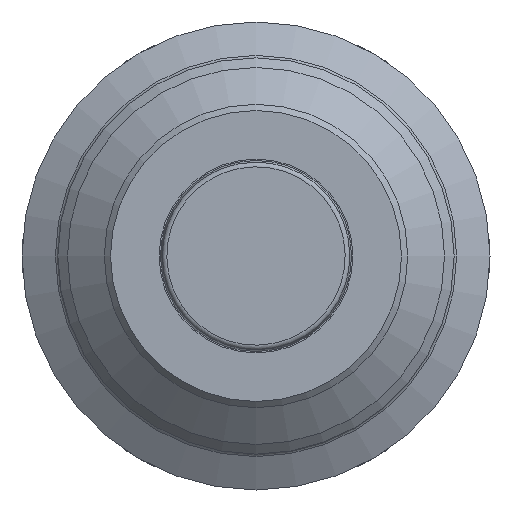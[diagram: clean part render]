
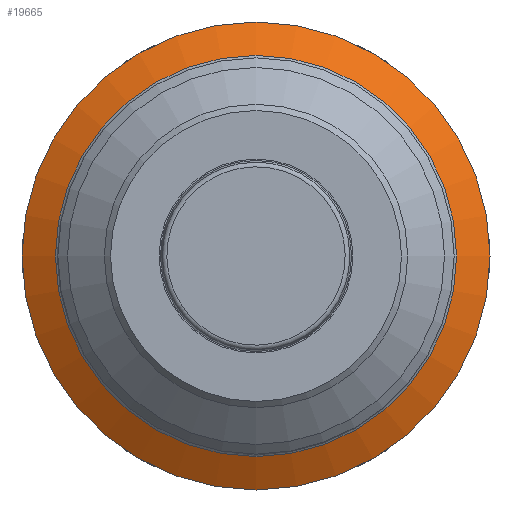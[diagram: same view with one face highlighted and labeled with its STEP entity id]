
A CAD part, front view. The second image highlights one B-rep face of the part: STEP entity #19665.
In plain terms, the highlighted conical face has half-angle 60 degrees and reference radius 17.45 mm.
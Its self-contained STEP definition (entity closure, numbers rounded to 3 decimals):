
#2758=LINE('',#33987,#3904);
#3904=VECTOR('',#22001,17.45);
#4535=CONICAL_SURFACE('',#20507,17.45,1.047);
#6100=FACE_OUTER_BOUND('',#7156,.T.);
#7156=EDGE_LOOP('',(#15708,#15709,#15710,#15711,#15712));
#7868=CIRCLE('',#20508,18.9);
#7869=CIRCLE('',#20509,16.2);
#7870=CIRCLE('',#20510,16.2);
#9000=VERTEX_POINT('',#33984);
#9001=VERTEX_POINT('',#33986);
#9002=VERTEX_POINT('',#33988);
#11417=EDGE_CURVE('',#9000,#9000,#7868,.T.);
#11418=EDGE_CURVE('',#9000,#9001,#2758,.T.);
#11419=EDGE_CURVE('',#9002,#9001,#7869,.T.);
#11420=EDGE_CURVE('',#9001,#9002,#7870,.T.);
#15708=ORIENTED_EDGE('',*,*,#11417,.F.);
#15709=ORIENTED_EDGE('',*,*,#11418,.T.);
#15710=ORIENTED_EDGE('',*,*,#11419,.F.);
#15711=ORIENTED_EDGE('',*,*,#11420,.F.);
#15712=ORIENTED_EDGE('',*,*,#11418,.F.);
#19665=ADVANCED_FACE('',(#6100),#4535,.T.);
#20507=AXIS2_PLACEMENT_3D('',#33983,#21997,#21998);
#20508=AXIS2_PLACEMENT_3D('',#33985,#21999,#22000);
#20509=AXIS2_PLACEMENT_3D('',#33989,#22002,#22003);
#20510=AXIS2_PLACEMENT_3D('',#33990,#22004,#22005);
#21997=DIRECTION('center_axis',(0.,1.,0.));
#21998=DIRECTION('ref_axis',(-1.,0.,0.));
#21999=DIRECTION('center_axis',(0.,1.,0.));
#22000=DIRECTION('ref_axis',(1.,0.,0.));
#22001=DIRECTION('',(-0.866,-0.5,0.));
#22002=DIRECTION('center_axis',(0.,-1.,0.));
#22003=DIRECTION('ref_axis',(1.,0.,0.));
#22004=DIRECTION('center_axis',(0.,-1.,0.));
#22005=DIRECTION('ref_axis',(1.,0.,0.));
#33983=CARTESIAN_POINT('Origin',(0.,-1.163,0.));
#33984=CARTESIAN_POINT('',(18.9,-0.326,0.));
#33985=CARTESIAN_POINT('Origin',(0.,-0.326,0.));
#33986=CARTESIAN_POINT('',(16.2,-1.885,0.));
#33987=CARTESIAN_POINT('',(17.45,-1.163,0.));
#33988=CARTESIAN_POINT('',(0.,-1.885,-16.2));
#33989=CARTESIAN_POINT('Origin',(0.,-1.885,0.));
#33990=CARTESIAN_POINT('Origin',(0.,-1.885,0.));
